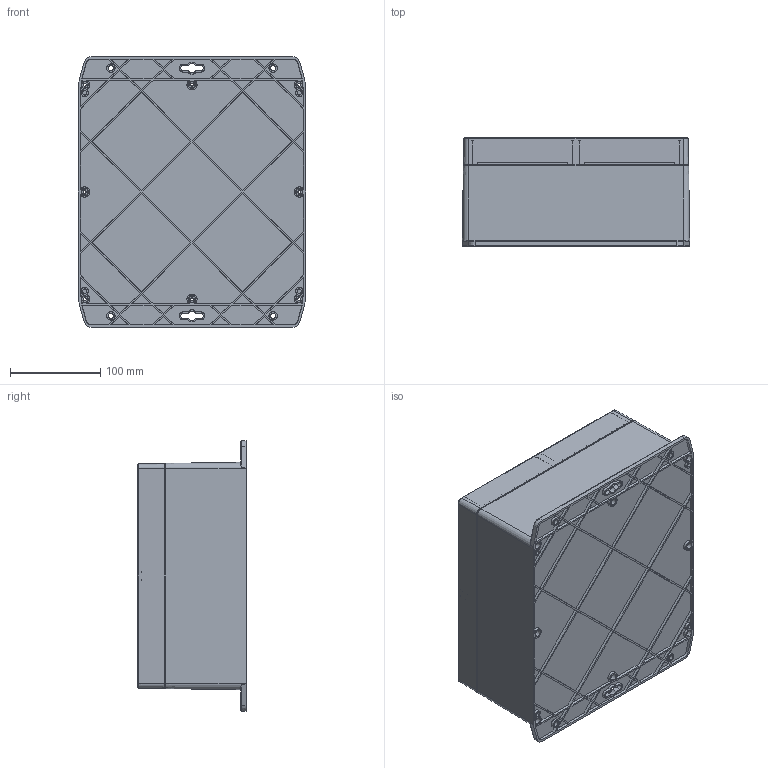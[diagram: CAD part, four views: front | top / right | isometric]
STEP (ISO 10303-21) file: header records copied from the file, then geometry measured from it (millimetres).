
FILE_DESCRIPTION (( 'STEP AP203' ), '1' );
FILE_NAME ('PF269.STEP', '2019-07-19T06:28:07', ( '' ), ( '' ), 'SwSTEP 2.0', 'SolidWorks 2019', '' );
FILE_SCHEMA (( 'CONFIG_CONTROL_DESIGN' ));
Length unit declared in the file: millimetre
Products named in the file (3): PF269
Assembly tree (2 placements, depth 2):
  PF269
    PF269
    PF269
Bounding box: 252.51 x 120 x 300 mm (x, y, z)
Volume: 970387.6 mm3; surface area: 583249.6 mm2
Topology: 2 solids, 2 shells, 1402 faces, 3625 edges, 2402 vertices
Faces by surface type: plane 707, cone 489, cylinder 198, torus 8
Entity records: 43968 total; most frequent: CARTESIAN_POINT 8354, DIRECTION 7577, ORIENTED_EDGE 7226, EDGE_CURVE 3613, AXIS2_PLACEMENT_3D 2777, VERTEX_POINT 2402, LINE 2023, VECTOR 2023
